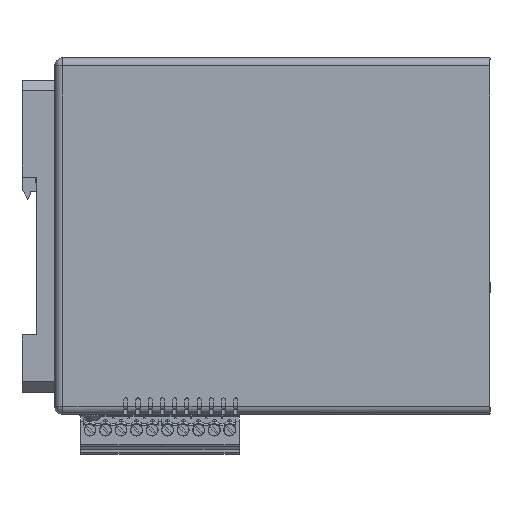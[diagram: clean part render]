
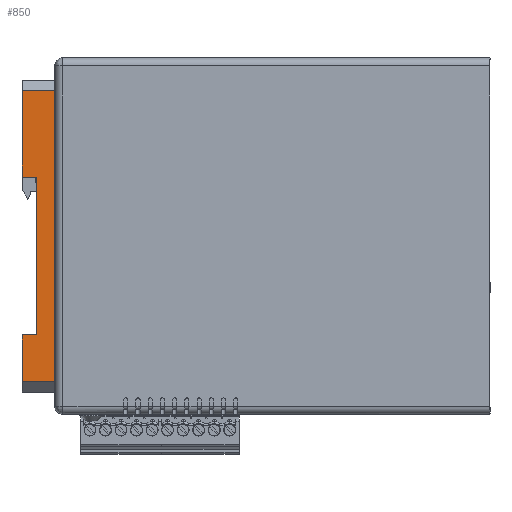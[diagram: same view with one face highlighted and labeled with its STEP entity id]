
A CAD part, left-side view. The second image highlights one B-rep face of the part: STEP entity #850.
In plain terms, the highlighted planar face has unit normal (-1, 0, 0).
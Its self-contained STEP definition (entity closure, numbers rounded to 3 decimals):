
#850=ADVANCED_FACE('',(#1962),#18086,.T.);
#1962=FACE_OUTER_BOUND('',#3125,.T.);
#3125=EDGE_LOOP('',(#7482,#7483,#7484,#7485,#7486,#7487,#7488,#7489));
#7482=ORIENTED_EDGE('',*,*,#11600,.T.);
#7483=ORIENTED_EDGE('',*,*,#11608,.T.);
#7484=ORIENTED_EDGE('',*,*,#11503,.T.);
#7485=ORIENTED_EDGE('',*,*,#11504,.T.);
#7486=ORIENTED_EDGE('',*,*,#11505,.T.);
#7487=ORIENTED_EDGE('',*,*,#11506,.T.);
#7488=ORIENTED_EDGE('',*,*,#11494,.F.);
#7489=ORIENTED_EDGE('',*,*,#11563,.T.);
#11494=EDGE_CURVE('',#16834,#16835,#14752,.T.);
#11503=EDGE_CURVE('',#16844,#16845,#14761,.T.);
#11504=EDGE_CURVE('',#16845,#16846,#14762,.T.);
#11505=EDGE_CURVE('',#16846,#16847,#14763,.T.);
#11506=EDGE_CURVE('',#16847,#16835,#14764,.T.);
#11563=EDGE_CURVE('',#16834,#16896,#14793,.T.);
#11600=EDGE_CURVE('',#16896,#16897,#14814,.T.);
#11608=EDGE_CURVE('',#16897,#16844,#14822,.T.);
#14752=B_SPLINE_CURVE_WITH_KNOTS('',1,(#44380,#44381),.UNSPECIFIED.,.F.,
 .F.,(2,2),(0.,11.5),.UNSPECIFIED.);
#14761=B_SPLINE_CURVE_WITH_KNOTS('',1,(#44398,#44399),.UNSPECIFIED.,.F.,
 .F.,(2,2),(0.,21.3),.UNSPECIFIED.);
#14762=B_SPLINE_CURVE_WITH_KNOTS('',1,(#44400,#44401),.UNSPECIFIED.,.F.,
 .F.,(2,2),(0.,3.6),.UNSPECIFIED.);
#14763=B_SPLINE_CURVE_WITH_KNOTS('',1,(#44402,#44403),.UNSPECIFIED.,.F.,
 .F.,(2,2),(0.,38.7),.UNSPECIFIED.);
#14764=B_SPLINE_CURVE_WITH_KNOTS('',1,(#44404,#44405),.UNSPECIFIED.,.F.,
 .F.,(2,2),(0.,3.6),.UNSPECIFIED.);
#14793=B_SPLINE_CURVE_WITH_KNOTS('',1,(#44584,#44585,#44586,#44587,#44588),
 .UNSPECIFIED.,.F.,.F.,(2,1,1,1,2),(-7.996,-4.396,-3.596,
-0.498,0.004),.UNSPECIFIED.);
#14814=B_SPLINE_CURVE_WITH_KNOTS('',1,(#44677,#44678),.UNSPECIFIED.,.F.,
 .F.,(2,2),(-78.651,-7.151),.UNSPECIFIED.);
#14822=B_SPLINE_CURVE_WITH_KNOTS('',1,(#44693,#44694,#44695,#44696,#44697),
 .UNSPECIFIED.,.F.,.F.,(2,1,1,1,2),(-0.502,0.,3.098,
3.898,7.498),.UNSPECIFIED.);
#16834=VERTEX_POINT('',#34065);
#16835=VERTEX_POINT('',#34066);
#16844=VERTEX_POINT('',#34075);
#16845=VERTEX_POINT('',#34076);
#16846=VERTEX_POINT('',#34077);
#16847=VERTEX_POINT('',#34078);
#16896=VERTEX_POINT('',#34127);
#16897=VERTEX_POINT('',#34128);
#18086=PLANE('',#18658);
#18658=AXIS2_PLACEMENT_3D('',#20978,#19213,$);
#19213=DIRECTION('',(-1.,0.,0.));
#20978=CARTESIAN_POINT('',(139.579,-71.648,177.567));
#34065=CARTESIAN_POINT('',(139.579,-72.449,98.915));
#34066=CARTESIAN_POINT('',(139.579,-72.449,110.415));
#34075=CARTESIAN_POINT('',(139.579,-72.449,170.415));
#34076=CARTESIAN_POINT('',(139.579,-72.449,149.115));
#34077=CARTESIAN_POINT('',(139.579,-76.049,149.115));
#34078=CARTESIAN_POINT('',(139.579,-76.049,110.415));
#34127=CARTESIAN_POINT('',(139.579,-80.449,98.915));
#34128=CARTESIAN_POINT('',(139.579,-80.449,170.415));
#44380=CARTESIAN_POINT('',(139.579,-72.449,98.915));
#44381=CARTESIAN_POINT('',(139.579,-72.449,110.415));
#44398=CARTESIAN_POINT('',(139.579,-72.449,170.415));
#44399=CARTESIAN_POINT('',(139.579,-72.449,149.115));
#44400=CARTESIAN_POINT('',(139.579,-72.449,149.115));
#44401=CARTESIAN_POINT('',(139.579,-76.049,149.115));
#44402=CARTESIAN_POINT('',(139.579,-76.049,149.115));
#44403=CARTESIAN_POINT('',(139.579,-76.049,110.415));
#44404=CARTESIAN_POINT('',(139.579,-76.049,110.415));
#44405=CARTESIAN_POINT('',(139.579,-72.449,110.415));
#44584=CARTESIAN_POINT('',(139.579,-72.449,98.915));
#44585=CARTESIAN_POINT('',(139.579,-76.049,98.915));
#44586=CARTESIAN_POINT('',(139.579,-76.849,98.915));
#44587=CARTESIAN_POINT('',(139.579,-79.948,98.915));
#44588=CARTESIAN_POINT('',(139.579,-80.449,98.915));
#44677=CARTESIAN_POINT('',(139.579,-80.449,98.915));
#44678=CARTESIAN_POINT('',(139.579,-80.449,170.415));
#44693=CARTESIAN_POINT('',(139.579,-80.449,170.415));
#44694=CARTESIAN_POINT('',(139.579,-79.948,170.415));
#44695=CARTESIAN_POINT('',(139.579,-76.849,170.415));
#44696=CARTESIAN_POINT('',(139.579,-76.049,170.415));
#44697=CARTESIAN_POINT('',(139.579,-72.449,170.415));
